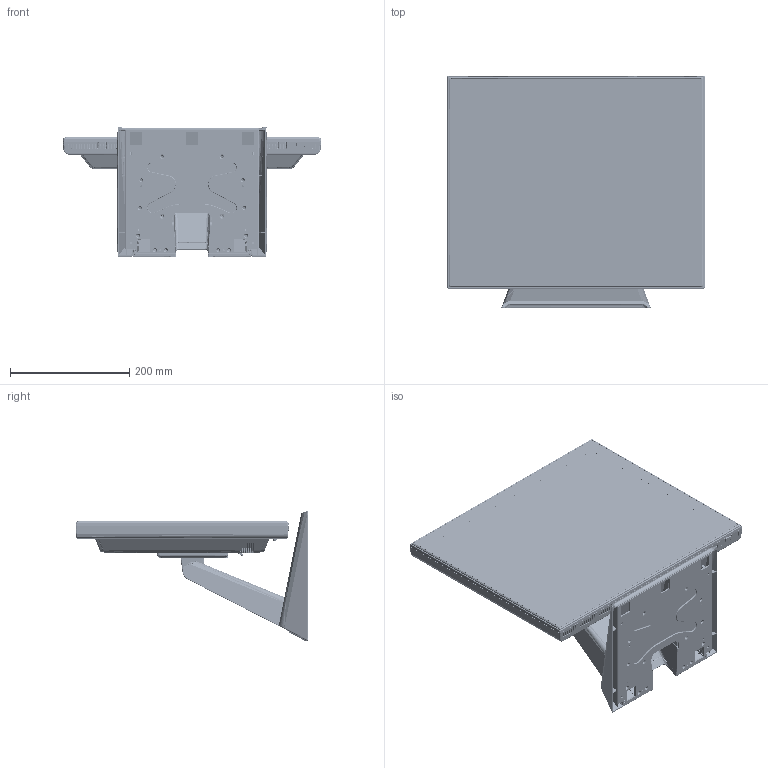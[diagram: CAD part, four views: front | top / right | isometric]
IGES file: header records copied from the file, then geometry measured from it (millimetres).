
Start section: SolidWorks IGES file using analytic representation for surfaces
Global section: file name: C:\Users\jcordisco\Documents\Projects\Monitor\Final\PT1945P\997-7415-01_A_PT1945P.IGS; native system: SolidWorks 2019; preprocessor: SolidWorks 2019; author: jcordisco; date: 210726.112712; units: millimetre
Bounding box: 431.8 x 389.85 x 219.02 mm (x, y, z)
Surface area: 1547805.6 mm2 (no closed solid volume)
Topology: 0 solids, 0 shells, 15310 faces, 125853 edges, 125709 vertices
Faces by surface type: bspline 9441, revolution 5869
